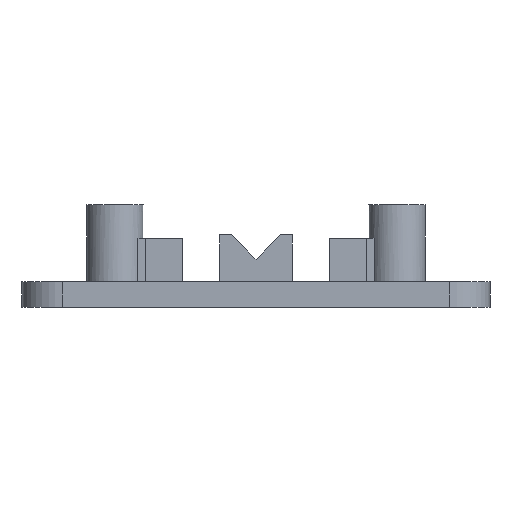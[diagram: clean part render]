
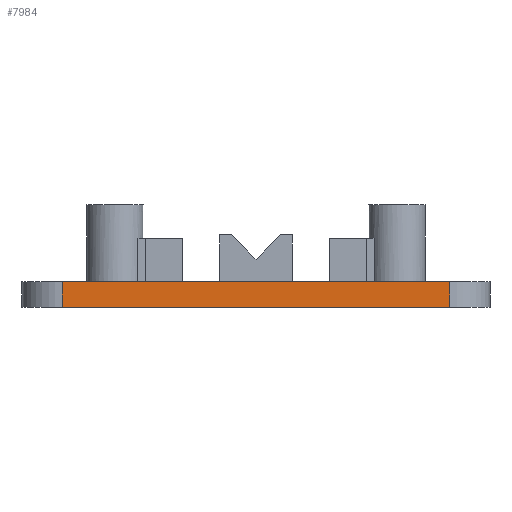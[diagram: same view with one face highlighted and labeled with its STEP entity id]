
A CAD part, left-side view. The second image highlights one B-rep face of the part: STEP entity #7984.
In plain terms, the highlighted planar face has unit normal (-1, 0, 0).
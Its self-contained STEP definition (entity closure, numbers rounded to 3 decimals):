
#44 = PLANE('',#45);
#45 = AXIS2_PLACEMENT_3D('',#46,#47,#48);
#46 = CARTESIAN_POINT('',(0.,0.,0.));
#47 = DIRECTION('',(0.,0.,1.));
#48 = DIRECTION('',(1.,0.,-0.));
#72 = CYLINDRICAL_SURFACE('',#73,5.);
#73 = AXIS2_PLACEMENT_3D('',#74,#75,#76);
#74 = CARTESIAN_POINT('',(-37.,-24.,0.));
#75 = DIRECTION('',(0.,0.,1.));
#76 = DIRECTION('',(0.,-1.,0.));
#100 = PLANE('',#101);
#101 = AXIS2_PLACEMENT_3D('',#102,#103,#104);
#102 = CARTESIAN_POINT('',(0.,0.,3.2));
#103 = DIRECTION('',(0.,0.,1.));
#104 = DIRECTION('',(1.,0.,-0.));
#252 = VERTEX_POINT('',#253);
#253 = CARTESIAN_POINT('',(-42.,24.,0.));
#268 = CYLINDRICAL_SURFACE('',#269,5.);
#269 = AXIS2_PLACEMENT_3D('',#270,#271,#272);
#270 = CARTESIAN_POINT('',(-37.,24.,0.));
#271 = DIRECTION('',(0.,0.,1.));
#272 = DIRECTION('',(-0.,1.,0.));
#280 = EDGE_CURVE('',#252,#281,#283,.T.);
#281 = VERTEX_POINT('',#282);
#282 = CARTESIAN_POINT('',(-42.,-24.,0.));
#283 = SURFACE_CURVE('',#284,(#288,#295),.PCURVE_S1.);
#284 = LINE('',#285,#286);
#285 = CARTESIAN_POINT('',(-42.,29.,0.));
#286 = VECTOR('',#287,1.);
#287 = DIRECTION('',(0.,-1.,0.));
#288 = PCURVE('',#44,#289);
#289 = DEFINITIONAL_REPRESENTATION('',(#290),#294);
#290 = LINE('',#291,#292);
#291 = CARTESIAN_POINT('',(-42.,29.));
#292 = VECTOR('',#293,1.);
#293 = DIRECTION('',(0.,-1.));
#294 = ( GEOMETRIC_REPRESENTATION_CONTEXT(2) 
PARAMETRIC_REPRESENTATION_CONTEXT() REPRESENTATION_CONTEXT('2D SPACE',''
  ) );
#295 = PCURVE('',#296,#301);
#296 = PLANE('',#297);
#297 = AXIS2_PLACEMENT_3D('',#298,#299,#300);
#298 = CARTESIAN_POINT('',(-42.,29.,0.));
#299 = DIRECTION('',(1.,0.,-0.));
#300 = DIRECTION('',(0.,-1.,0.));
#301 = DEFINITIONAL_REPRESENTATION('',(#302),#306);
#302 = LINE('',#303,#304);
#303 = CARTESIAN_POINT('',(0.,0.));
#304 = VECTOR('',#305,1.);
#305 = DIRECTION('',(1.,0.));
#306 = ( GEOMETRIC_REPRESENTATION_CONTEXT(2) 
PARAMETRIC_REPRESENTATION_CONTEXT() REPRESENTATION_CONTEXT('2D SPACE',''
  ) );
#786 = EDGE_CURVE('',#281,#787,#789,.T.);
#787 = VERTEX_POINT('',#788);
#788 = CARTESIAN_POINT('',(-42.,-24.,3.2));
#789 = SURFACE_CURVE('',#790,(#794,#801),.PCURVE_S1.);
#790 = LINE('',#791,#792);
#791 = CARTESIAN_POINT('',(-42.,-24.,0.));
#792 = VECTOR('',#793,1.);
#793 = DIRECTION('',(0.,0.,1.));
#794 = PCURVE('',#72,#795);
#795 = DEFINITIONAL_REPRESENTATION('',(#796),#800);
#796 = LINE('',#797,#798);
#797 = CARTESIAN_POINT('',(-1.571,0.));
#798 = VECTOR('',#799,1.);
#799 = DIRECTION('',(-0.,1.));
#800 = ( GEOMETRIC_REPRESENTATION_CONTEXT(2) 
PARAMETRIC_REPRESENTATION_CONTEXT() REPRESENTATION_CONTEXT('2D SPACE',''
  ) );
#801 = PCURVE('',#296,#802);
#802 = DEFINITIONAL_REPRESENTATION('',(#803),#807);
#803 = LINE('',#804,#805);
#804 = CARTESIAN_POINT('',(53.,0.));
#805 = VECTOR('',#806,1.);
#806 = DIRECTION('',(0.,-1.));
#807 = ( GEOMETRIC_REPRESENTATION_CONTEXT(2) 
PARAMETRIC_REPRESENTATION_CONTEXT() REPRESENTATION_CONTEXT('2D SPACE',''
  ) );
#962 = VERTEX_POINT('',#963);
#963 = CARTESIAN_POINT('',(-42.,24.,3.2));
#985 = EDGE_CURVE('',#962,#787,#986,.T.);
#986 = SURFACE_CURVE('',#987,(#991,#998),.PCURVE_S1.);
#987 = LINE('',#988,#989);
#988 = CARTESIAN_POINT('',(-42.,29.,3.2));
#989 = VECTOR('',#990,1.);
#990 = DIRECTION('',(0.,-1.,0.));
#991 = PCURVE('',#100,#992);
#992 = DEFINITIONAL_REPRESENTATION('',(#993),#997);
#993 = LINE('',#994,#995);
#994 = CARTESIAN_POINT('',(-42.,29.));
#995 = VECTOR('',#996,1.);
#996 = DIRECTION('',(0.,-1.));
#997 = ( GEOMETRIC_REPRESENTATION_CONTEXT(2) 
PARAMETRIC_REPRESENTATION_CONTEXT() REPRESENTATION_CONTEXT('2D SPACE',''
  ) );
#998 = PCURVE('',#296,#999);
#999 = DEFINITIONAL_REPRESENTATION('',(#1000),#1004);
#1000 = LINE('',#1001,#1002);
#1001 = CARTESIAN_POINT('',(0.,-3.2));
#1002 = VECTOR('',#1003,1.);
#1003 = DIRECTION('',(1.,0.));
#1004 = ( GEOMETRIC_REPRESENTATION_CONTEXT(2) 
PARAMETRIC_REPRESENTATION_CONTEXT() REPRESENTATION_CONTEXT('2D SPACE',''
  ) );
#7962 = EDGE_CURVE('',#252,#962,#7963,.T.);
#7963 = SURFACE_CURVE('',#7964,(#7968,#7975),.PCURVE_S1.);
#7964 = LINE('',#7965,#7966);
#7965 = CARTESIAN_POINT('',(-42.,24.,0.));
#7966 = VECTOR('',#7967,1.);
#7967 = DIRECTION('',(0.,0.,1.));
#7968 = PCURVE('',#268,#7969);
#7969 = DEFINITIONAL_REPRESENTATION('',(#7970),#7974);
#7970 = LINE('',#7971,#7972);
#7971 = CARTESIAN_POINT('',(1.571,0.));
#7972 = VECTOR('',#7973,1.);
#7973 = DIRECTION('',(0.,1.));
#7974 = ( GEOMETRIC_REPRESENTATION_CONTEXT(2) 
PARAMETRIC_REPRESENTATION_CONTEXT() REPRESENTATION_CONTEXT('2D SPACE',''
  ) );
#7975 = PCURVE('',#296,#7976);
#7976 = DEFINITIONAL_REPRESENTATION('',(#7977),#7981);
#7977 = LINE('',#7978,#7979);
#7978 = CARTESIAN_POINT('',(5.,0.));
#7979 = VECTOR('',#7980,1.);
#7980 = DIRECTION('',(0.,-1.));
#7981 = ( GEOMETRIC_REPRESENTATION_CONTEXT(2) 
PARAMETRIC_REPRESENTATION_CONTEXT() REPRESENTATION_CONTEXT('2D SPACE',''
  ) );
#7984 = ADVANCED_FACE('',(#7985),#296,.F.);
#7985 = FACE_BOUND('',#7986,.F.);
#7986 = EDGE_LOOP('',(#7987,#7988,#7989,#7990));
#7987 = ORIENTED_EDGE('',*,*,#280,.F.);
#7988 = ORIENTED_EDGE('',*,*,#7962,.T.);
#7989 = ORIENTED_EDGE('',*,*,#985,.T.);
#7990 = ORIENTED_EDGE('',*,*,#786,.F.);
